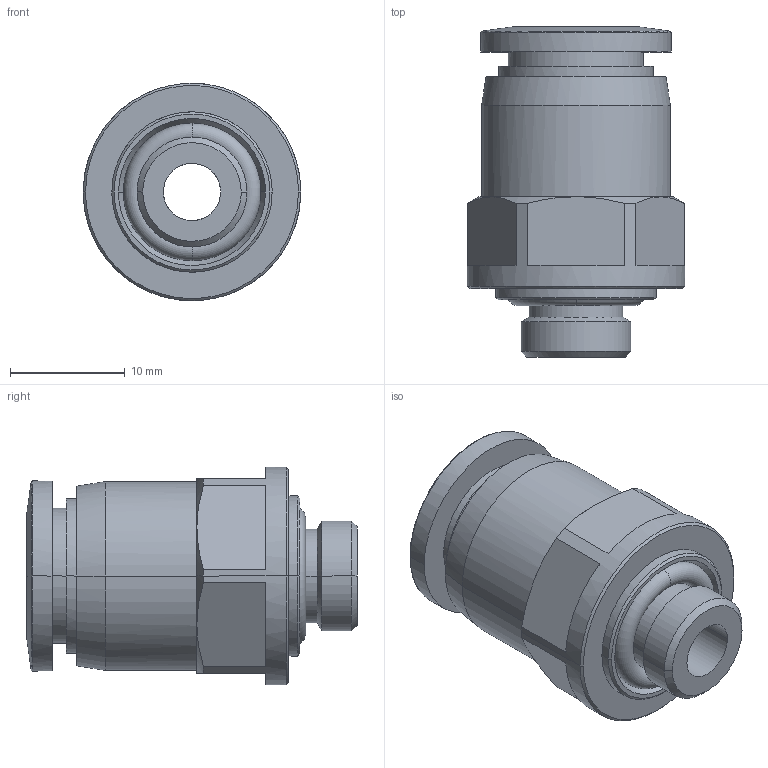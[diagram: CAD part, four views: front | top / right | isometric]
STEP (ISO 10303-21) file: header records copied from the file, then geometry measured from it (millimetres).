
FILE_DESCRIPTION (( 'STEP AP203' ), '1' );
FILE_NAME ('FH10-01.STEP', '2020-05-06T14:34:27', ( '' ), ( '' ), 'SwSTEP 2.0', 'SolidWorks 2019', '' );
FILE_SCHEMA (( 'CONFIG_CONTROL_DESIGN' ));
Length unit declared in the file: millimetre
Products named in the file (1): FH10-01
Bounding box: 19 x 28.85 x 18.99 mm (x, y, z)
Surface area: 3128 mm2 (no closed solid volume)
Topology: 0 solids, 4 shells, 74 faces, 174 edges, 111 vertices
Faces by surface type: plane 23, cylinder 22, cone 21, torus 8
Entity records: 3506 total; most frequent: CARTESIAN_POINT 1990, ORIENTED_EDGE 332, DIRECTION 203, EDGE_CURVE 174, B_SPLINE_CURVE_WITH_KNOTS 129, VERTEX_POINT 111, EDGE_LOOP 85, AXIS2_PLACEMENT_3D 83
